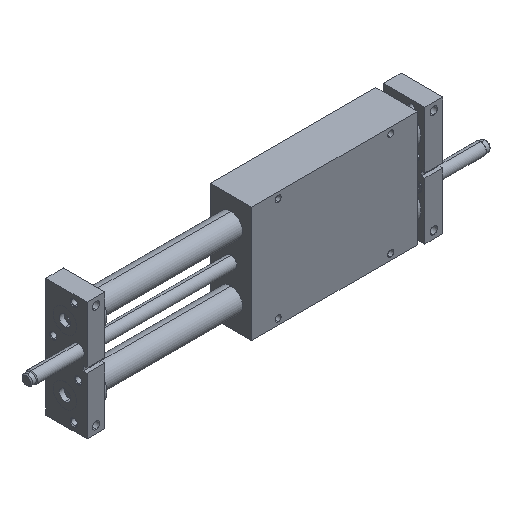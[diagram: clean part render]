
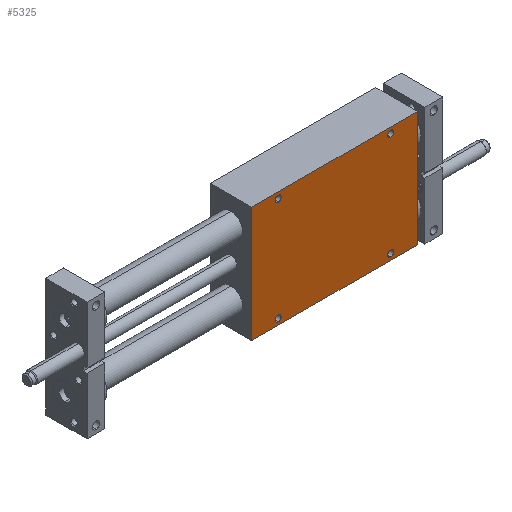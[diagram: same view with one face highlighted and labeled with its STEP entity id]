
A CAD part, isometric view. The second image highlights one B-rep face of the part: STEP entity #5325.
In plain terms, the highlighted planar face has unit normal (0, -1, 0).
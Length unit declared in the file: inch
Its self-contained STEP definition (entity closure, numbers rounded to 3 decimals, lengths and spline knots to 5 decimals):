
#120 = CARTESIAN_POINT ( 'NONE',  ( 2.375, -0.875, -2.0625 ) ) ;
#163 = CARTESIAN_POINT ( 'NONE',  ( 3.5, -0.875, 2.4375 ) ) ;
#245 = DIRECTION ( 'NONE',  ( -1., 0., 0. ) ) ;
#254 = CARTESIAN_POINT ( 'NONE',  ( 3.5, -0.875, -2.4375 ) ) ;
#422 = ORIENTED_EDGE ( 'NONE', *, *, #4646, .T. ) ;
#494 = VECTOR ( 'NONE', #6962, 39.37008 ) ;
#518 = VERTEX_POINT ( 'NONE', #4697 ) ;
#727 = LINE ( 'NONE', #163, #494 ) ;
#761 = ORIENTED_EDGE ( 'NONE', *, *, #4147, .T. ) ;
#839 = EDGE_CURVE ( 'NONE', #1589, #518, #6935, .T. ) ;
#986 = CIRCLE ( 'NONE', #5953, 0.125 ) ;
#1003 = DIRECTION ( 'NONE',  ( 0., 1., 0. ) ) ;
#1115 = CIRCLE ( 'NONE', #6471, 0.125 ) ;
#1214 = CARTESIAN_POINT ( 'NONE',  ( 3.5, -0.875, 2.4375 ) ) ;
#1488 = CARTESIAN_POINT ( 'NONE',  ( 2.375, -0.875, 2.1875 ) ) ;
#1517 = CARTESIAN_POINT ( 'NONE',  ( 2.375, -0.875, -2.1875 ) ) ;
#1530 = AXIS2_PLACEMENT_3D ( 'NONE', #1488, #6764, #2232 ) ;
#1531 = DIRECTION ( 'NONE',  ( 0., 1., 0. ) ) ;
#1577 = EDGE_CURVE ( 'NONE', #5039, #4704, #3270, .T. ) ;
#1586 = DIRECTION ( 'NONE',  ( 0., 0., 1. ) ) ;
#1589 = VERTEX_POINT ( 'NONE', #120 ) ;
#1613 = DIRECTION ( 'NONE',  ( 0., 0., 1. ) ) ;
#1625 = CIRCLE ( 'NONE', #7674, 0.125 ) ;
#1630 = CARTESIAN_POINT ( 'NONE',  ( 2.375, -0.875, 2.3125 ) ) ;
#1844 = DIRECTION ( 'NONE',  ( 0., 1., 0. ) ) ;
#1970 = CARTESIAN_POINT ( 'NONE',  ( -2.375, -0.875, 2.0625 ) ) ;
#2000 = EDGE_CURVE ( 'NONE', #518, #1589, #5903, .T. ) ;
#2143 = VERTEX_POINT ( 'NONE', #1630 ) ;
#2170 = EDGE_LOOP ( 'NONE', ( #7178, #7317 ) ) ;
#2232 = DIRECTION ( 'NONE',  ( 0., 0., 1. ) ) ;
#2661 = CARTESIAN_POINT ( 'NONE',  ( -2.375, -0.875, 2.3125 ) ) ;
#2997 = LINE ( 'NONE', #9413, #5021 ) ;
#3045 = VERTEX_POINT ( 'NONE', #7413 ) ;
#3061 = CARTESIAN_POINT ( 'NONE',  ( 3.5, -0.875, 2.4375 ) ) ;
#3108 = DIRECTION ( 'NONE',  ( 0., 1., 0. ) ) ;
#3120 = ORIENTED_EDGE ( 'NONE', *, *, #5231, .T. ) ;
#3224 = FACE_OUTER_BOUND ( 'NONE', #4677, .T. ) ;
#3270 = LINE ( 'NONE', #9152, #4254 ) ;
#3340 = ORIENTED_EDGE ( 'NONE', *, *, #1577, .T. ) ;
#3461 = FACE_BOUND ( 'NONE', #8910, .T. ) ;
#3723 = VERTEX_POINT ( 'NONE', #4544 ) ;
#3741 = AXIS2_PLACEMENT_3D ( 'NONE', #3750, #9013, #4510 ) ;
#3750 = CARTESIAN_POINT ( 'NONE',  ( 2.375, -0.875, -2.1875 ) ) ;
#3883 = CARTESIAN_POINT ( 'NONE',  ( -3.5, -0.875, -2.4375 ) ) ;
#3885 = DIRECTION ( 'NONE',  ( -1., 0., 0. ) ) ;
#4080 = ORIENTED_EDGE ( 'NONE', *, *, #8823, .F. ) ;
#4085 = CARTESIAN_POINT ( 'NONE',  ( -2.375, -0.875, 2.1875 ) ) ;
#4097 = VERTEX_POINT ( 'NONE', #254 ) ;
#4116 = DIRECTION ( 'NONE',  ( 0., 0., -1. ) ) ;
#4147 = EDGE_CURVE ( 'NONE', #3045, #2143, #1115, .T. ) ;
#4178 = CIRCLE ( 'NONE', #1530, 0.125 ) ;
#4185 = EDGE_LOOP ( 'NONE', ( #9093, #5262 ) ) ;
#4190 = CIRCLE ( 'NONE', #9172, 0.125 ) ;
#4254 = VECTOR ( 'NONE', #3885, 39.37008 ) ;
#4290 = ORIENTED_EDGE ( 'NONE', *, *, #5428, .F. ) ;
#4510 = DIRECTION ( 'NONE',  ( 0., 0., 1. ) ) ;
#4528 = LINE ( 'NONE', #5546, #6759 ) ;
#4544 = CARTESIAN_POINT ( 'NONE',  ( -2.375, -0.875, -2.3125 ) ) ;
#4569 = EDGE_CURVE ( 'NONE', #7028, #3723, #8903, .T. ) ;
#4602 = PLANE ( 'NONE',  #5597 ) ;
#4646 = EDGE_CURVE ( 'NONE', #7153, #6418, #4190, .T. ) ;
#4677 = EDGE_LOOP ( 'NONE', ( #5628, #4080, #4290, #3340 ) ) ;
#4697 = CARTESIAN_POINT ( 'NONE',  ( 2.375, -0.875, -2.3125 ) ) ;
#4704 = VERTEX_POINT ( 'NONE', #9179 ) ;
#4847 = DIRECTION ( 'NONE',  ( 0., 0., 1. ) ) ;
#4858 = EDGE_CURVE ( 'NONE', #6418, #7153, #986, .T. ) ;
#5021 = VECTOR ( 'NONE', #4116, 39.37008 ) ;
#5039 = VERTEX_POINT ( 'NONE', #1214 ) ;
#5051 = DIRECTION ( 'NONE',  ( 0., 1., 0. ) ) ;
#5231 = EDGE_CURVE ( 'NONE', #2143, #3045, #4178, .T. ) ;
#5241 = FACE_BOUND ( 'NONE', #2170, .T. ) ;
#5262 = ORIENTED_EDGE ( 'NONE', *, *, #6863, .T. ) ;
#5325 = ADVANCED_FACE ( 'NONE', ( #7468, #5241, #9237, #3461, #3224 ), #4602, .F. ) ;
#5428 = EDGE_CURVE ( 'NONE', #5039, #4097, #727, .T. ) ;
#5546 = CARTESIAN_POINT ( 'NONE',  ( 3.5, -0.875, -2.4375 ) ) ;
#5548 = CARTESIAN_POINT ( 'NONE',  ( -2.375, -0.875, -2.1875 ) ) ;
#5597 = AXIS2_PLACEMENT_3D ( 'NONE', #3061, #6106, #1586 ) ;
#5628 = ORIENTED_EDGE ( 'NONE', *, *, #7694, .T. ) ;
#5903 = CIRCLE ( 'NONE', #3741, 0.125 ) ;
#5953 = AXIS2_PLACEMENT_3D ( 'NONE', #4085, #9347, #4847 ) ;
#6049 = CARTESIAN_POINT ( 'NONE',  ( -2.375, -0.875, -2.1875 ) ) ;
#6106 = DIRECTION ( 'NONE',  ( 0., 1., 0. ) ) ;
#6287 = DIRECTION ( 'NONE',  ( 0., 0., 1. ) ) ;
#6369 = CARTESIAN_POINT ( 'NONE',  ( 2.375, -0.875, 2.1875 ) ) ;
#6418 = VERTEX_POINT ( 'NONE', #2661 ) ;
#6471 = AXIS2_PLACEMENT_3D ( 'NONE', #6369, #1844, #7126 ) ;
#6759 = VECTOR ( 'NONE', #245, 39.37008 ) ;
#6764 = DIRECTION ( 'NONE',  ( 0., 1., 0. ) ) ;
#6802 = VERTEX_POINT ( 'NONE', #3883 ) ;
#6811 = DIRECTION ( 'NONE',  ( 0., 0., 1. ) ) ;
#6863 = EDGE_CURVE ( 'NONE', #3723, #7028, #1625, .T. ) ;
#6935 = CIRCLE ( 'NONE', #8535, 0.125 ) ;
#6962 = DIRECTION ( 'NONE',  ( 0., 0., -1. ) ) ;
#7006 = ORIENTED_EDGE ( 'NONE', *, *, #4858, .T. ) ;
#7028 = VERTEX_POINT ( 'NONE', #9363 ) ;
#7126 = DIRECTION ( 'NONE',  ( 0., 0., 1. ) ) ;
#7153 = VERTEX_POINT ( 'NONE', #1970 ) ;
#7178 = ORIENTED_EDGE ( 'NONE', *, *, #839, .T. ) ;
#7317 = ORIENTED_EDGE ( 'NONE', *, *, #2000, .T. ) ;
#7413 = CARTESIAN_POINT ( 'NONE',  ( 2.375, -0.875, 2.0625 ) ) ;
#7468 = FACE_BOUND ( 'NONE', #4185, .T. ) ;
#7636 = CARTESIAN_POINT ( 'NONE',  ( -2.375, -0.875, 2.1875 ) ) ;
#7674 = AXIS2_PLACEMENT_3D ( 'NONE', #5548, #1003, #6287 ) ;
#7694 = EDGE_CURVE ( 'NONE', #4704, #6802, #2997, .T. ) ;
#8386 = DIRECTION ( 'NONE',  ( 0., 0., 1. ) ) ;
#8535 = AXIS2_PLACEMENT_3D ( 'NONE', #1517, #5051, #1613 ) ;
#8679 = AXIS2_PLACEMENT_3D ( 'NONE', #6049, #1531, #6811 ) ;
#8823 = EDGE_CURVE ( 'NONE', #4097, #6802, #4528, .T. ) ;
#8903 = CIRCLE ( 'NONE', #8679, 0.125 ) ;
#8910 = EDGE_LOOP ( 'NONE', ( #7006, #422 ) ) ;
#9013 = DIRECTION ( 'NONE',  ( 0., 1., 0. ) ) ;
#9093 = ORIENTED_EDGE ( 'NONE', *, *, #4569, .T. ) ;
#9152 = CARTESIAN_POINT ( 'NONE',  ( 3.5, -0.875, 2.4375 ) ) ;
#9172 = AXIS2_PLACEMENT_3D ( 'NONE', #7636, #3108, #8386 ) ;
#9179 = CARTESIAN_POINT ( 'NONE',  ( -3.5, -0.875, 2.4375 ) ) ;
#9237 = FACE_BOUND ( 'NONE', #9718, .T. ) ;
#9347 = DIRECTION ( 'NONE',  ( 0., 1., 0. ) ) ;
#9363 = CARTESIAN_POINT ( 'NONE',  ( -2.375, -0.875, -2.0625 ) ) ;
#9413 = CARTESIAN_POINT ( 'NONE',  ( -3.5, -0.875, 2.4375 ) ) ;
#9718 = EDGE_LOOP ( 'NONE', ( #3120, #761 ) ) ;
